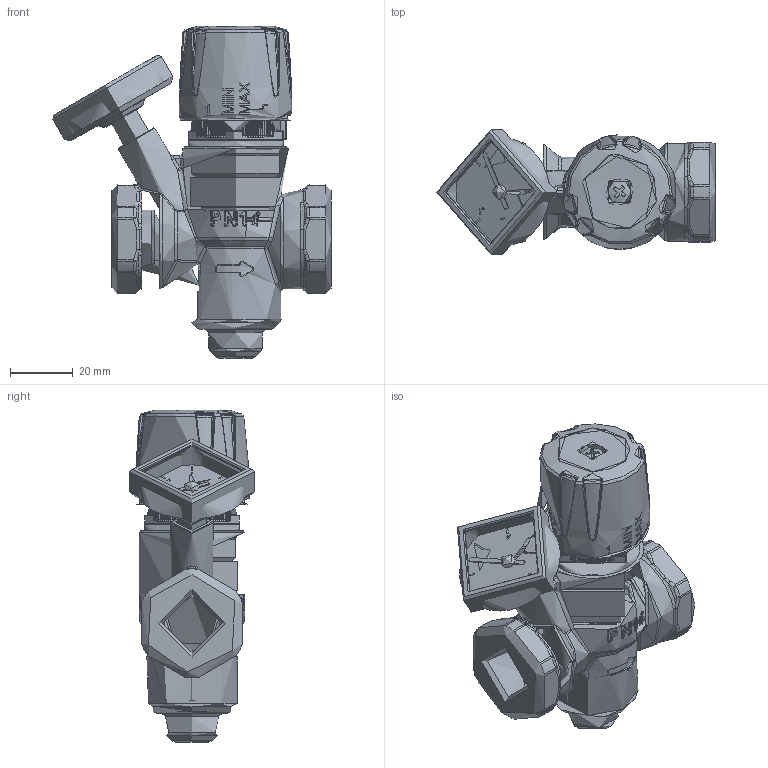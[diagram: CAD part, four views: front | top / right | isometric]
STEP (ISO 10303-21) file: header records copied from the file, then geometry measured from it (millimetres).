
FILE_DESCRIPTION(/* description */ ('Unknown'),/* implementation_level */ '2;1');
FILE_NAME(/* name */ 'T330132G-AF',/* time_stamp */ '2024-04-08T17:14:34+02:00',/* author */ ('Unknown'),/* organization */ ('Unknown'),/* preprocessor_version */ 'ST-DEVELOPER v18.102',/* originating_system */ 'Solid Edge',/* authorisation */ 'Unknown');
FILE_SCHEMA (('AUTOMOTIVE_DESIGN {1 0 10303 214 3 1 1}'));
Length unit declared in the file: millimetre
Products named in the file (7): T33-AF; 41200; 67089; Manopola serigrafata T15; 22018; 57205; 23485
Assembly tree (6 placements, depth 2):
  T33-AF
    41200
    67089
    Manopola serigrafata T15
    22018
    57205
    23485
Bounding box: 88.81 x 40 x 105.97 mm (x, y, z)
Topology: 5 solids, 11 shells, 2096 faces, 5557 edges, 3503 vertices
Faces by surface type: plane 676, bspline 589, cylinder 385, torus 287, sphere 85, cone 74
Full cylindrical faces by diameter (mm): 0.3 x1, 4 x1, 4.502 x1, 4.572 x1, 7.841 x1, 8.8 x1, 9 x1, 10 x1, 11 x1, 12 x1, 13.5 x1, 15 x1, 17 x2, 17.015 x1, 18.4 x1, 18.631 x3, 19.222 x1, 20.2 x1, 21.8 x3, 21.9 x2, 23.3 x2, 23.8 x2, 24 x2, 24.5 x1, 25.2 x1, 25.4 x1, 25.876 x1, 28 x2, 28.3 x1, 28.7 x1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
Entity records: 90605 total; most frequent: CARTESIAN_POINT 36100, ORIENTED_EDGE 10620, DIRECTION 7856, EDGE_CURVE 5310, VERTEX_POINT 3445, AXIS2_PLACEMENT_3D 3350, EDGE_LOOP 2321, FACE_BOUND 2321
